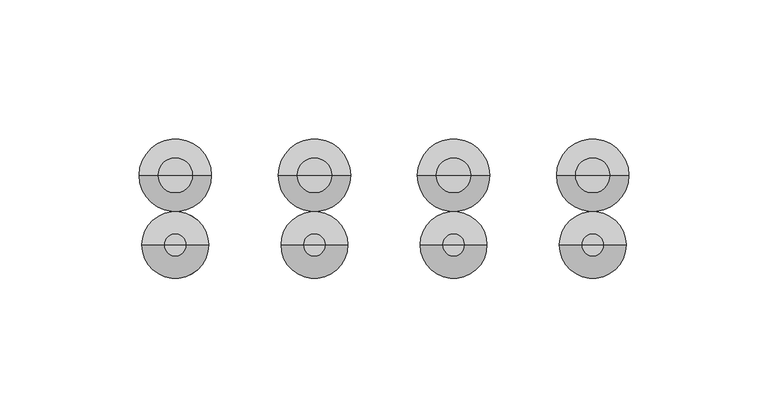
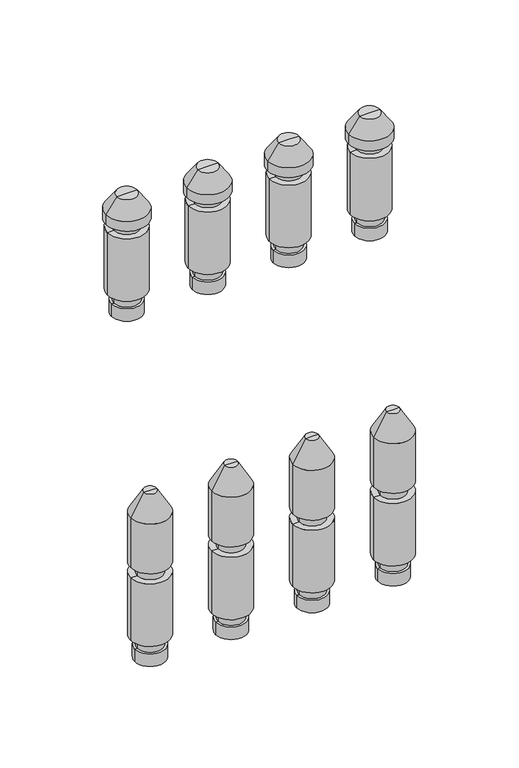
"""IFC4 building model written with IfcOpenShell, lengths in millimetres: valve geometry, PL CZ_Manifold_FT-VA : 05 circuits."""

from ifc_helpers import new_model, si_unit, frame, origin, place, context, project, spatial, polyline, circle_curve, source, transform, mapped, element, save
from ifc_brep_helpers import plane_surface, cylinder_surface, revolved_surface, advanced_brep


def valve_cd8652ac(model_context):
    return source(origin(), model_context, "Body", "AdvancedBrep", [
        advanced_brep(
        [(178.5, 0.0, -35.11267), (197.5, 0.0, -35.11267), (188.0, 0.0, -35.11267), (178.5, 0.0, -27.0369646), (197.5, 0.0, -27.0369646), (180.0, 0.0, -27.0369646), (196.0, 0.0, -27.0369646), (180.0, 0.0, -20.330253), (196.0, 0.0, -20.330253), (176.0, 0.0, -20.330253), (200.0, 0.0, -20.330253), (176.0, 0.0, 20.330253), (200.0, 0.0, 20.330253), (180.0, 0.0, 20.330253), (196.0, 0.0, 20.330253), (180.0, 0.0, 27.0474786), (196.0, 0.0, 27.0474786), (176.0, 0.0, 27.0474786), (200.0, 0.0, 27.0474786), (176.0, 0.0, 59.4084325), (200.0, 0.0, 59.4084325), (184.0, 0.0, 73.264839), (192.0, 0.0, 73.264839), (188.0, 0.0, 73.264839)],
        [
            (0, 1, circle_curve(frame((188.0, 0.0, -35.11267), z_axis=(0.0, 0.0, -1.0), x_axis=(1.0, 0.0, 0.0)), 9.5)),
            (1, 2),
            (2, 0),
            (1, 0, circle_curve(frame((188.0, 0.0, -35.11267), z_axis=(0.0, 0.0, -1.0), x_axis=(1.0, 0.0, 0.0)), 9.5)),
            (3, 4, circle_curve(frame((188.0, 0.0, -27.0369646), z_axis=(0.0, 0.0, -1.0), x_axis=(1.0, 0.0, 0.0)), 9.5)),
            (4, 1),
            (0, 3),
            (4, 3, circle_curve(frame((188.0, 0.0, -27.0369646), z_axis=(0.0, 0.0, -1.0), x_axis=(1.0, 0.0, 0.0)), 9.5)),
            (5, 6, circle_curve(frame((188.0, 0.0, -27.0369646), z_axis=(0.0, 0.0, -1.0), x_axis=(1.0, 0.0, 0.0)), 8.0)),
            (6, 4),
            (3, 5),
            (6, 5, circle_curve(frame((188.0, 0.0, -27.0369646), z_axis=(0.0, 0.0, -1.0), x_axis=(1.0, 0.0, 0.0)), 8.0)),
            (7, 8, circle_curve(frame((188.0, 0.0, -20.330253), z_axis=(0.0, 0.0, -1.0), x_axis=(1.0, 0.0, 0.0)), 8.0)),
            (8, 6),
            (5, 7),
            (8, 7, circle_curve(frame((188.0, 0.0, -20.330253), z_axis=(0.0, 0.0, -1.0), x_axis=(1.0, 0.0, 0.0)), 8.0)),
            (9, 10, circle_curve(frame((188.0, 0.0, -20.330253), z_axis=(0.0, 0.0, -1.0), x_axis=(1.0, 0.0, 0.0)), 12.0)),
            (10, 8),
            (7, 9),
            (10, 9, circle_curve(frame((188.0, 0.0, -20.330253), z_axis=(0.0, 0.0, -1.0), x_axis=(1.0, 0.0, 0.0)), 12.0)),
            (11, 12, circle_curve(frame((188.0, 0.0, 20.330253), z_axis=(0.0, 0.0, -1.0), x_axis=(1.0, 0.0, 0.0)), 12.0)),
            (12, 10),
            (9, 11),
            (12, 11, circle_curve(frame((188.0, 0.0, 20.330253), z_axis=(0.0, 0.0, -1.0), x_axis=(1.0, 0.0, 0.0)), 12.0)),
            (13, 14, circle_curve(frame((188.0, 0.0, 20.330253), z_axis=(0.0, 0.0, -1.0), x_axis=(1.0, 0.0, 0.0)), 8.0)),
            (14, 12),
            (11, 13),
            (14, 13, circle_curve(frame((188.0, 0.0, 20.330253), z_axis=(0.0, 0.0, -1.0), x_axis=(1.0, 0.0, 0.0)), 8.0)),
            (15, 16, circle_curve(frame((188.0, 0.0, 27.0474786), z_axis=(0.0, 0.0, -1.0), x_axis=(1.0, 0.0, 0.0)), 8.0)),
            (16, 14),
            (13, 15),
            (16, 15, circle_curve(frame((188.0, 0.0, 27.0474786), z_axis=(0.0, 0.0, -1.0), x_axis=(1.0, 0.0, 0.0)), 8.0)),
            (17, 18, circle_curve(frame((188.0, 0.0, 27.0474786), z_axis=(0.0, 0.0, -1.0), x_axis=(1.0, 0.0, 0.0)), 12.0)),
            (18, 16),
            (15, 17),
            (18, 17, circle_curve(frame((188.0, 0.0, 27.0474786), z_axis=(0.0, 0.0, -1.0), x_axis=(1.0, 0.0, 0.0)), 12.0)),
            (19, 20, circle_curve(frame((188.0, 0.0, 59.4084325), z_axis=(0.0, 0.0, -1.0), x_axis=(1.0, 0.0, 0.0)), 12.0)),
            (20, 18),
            (17, 19),
            (20, 19, circle_curve(frame((188.0, 0.0, 59.4084325), z_axis=(0.0, 0.0, -1.0), x_axis=(1.0, 0.0, 0.0)), 12.0)),
            (21, 22, circle_curve(frame((188.0, 0.0, 73.264839), z_axis=(0.0, 0.0, -1.0), x_axis=(1.0, 0.0, 0.0)), 4.0)),
            (22, 20),
            (19, 21),
            (22, 21, circle_curve(frame((188.0, 0.0, 73.264839), z_axis=(0.0, 0.0, -1.0), x_axis=(1.0, 0.0, 0.0)), 4.0)),
            (23, 22),
            (21, 23),
        ],
        [
            plane_surface(frame((188.0, 0.0, -35.11267), z_axis=(0.0, 0.0, -1.0), x_axis=(1.0, 0.0, 0.0))),
            cylinder_surface(frame((188.0, 0.0, 58.264839), z_axis=(0.0, 0.0, 1.0), x_axis=(1.0, 0.0, 0.0)), 9.5),
            plane_surface(frame((188.0, 0.0, -27.0369646), z_axis=(0.0, 0.0, 1.0), x_axis=(1.0, 0.0, 0.0))),
            cylinder_surface(frame((188.0, 0.0, 58.264839), z_axis=(0.0, 0.0, 1.0), x_axis=(1.0, 0.0, 0.0)), 8.0),
            plane_surface(frame((188.0, 0.0, -20.330253), z_axis=(0.0, 0.0, -1.0), x_axis=(1.0, 0.0, 0.0))),
            cylinder_surface(frame((188.0, 0.0, 58.264839), z_axis=(0.0, 0.0, 1.0), x_axis=(1.0, 0.0, 0.0)), 12.0),
            plane_surface(frame((188.0, 0.0, 20.330253), z_axis=(0.0, 0.0, 1.0), x_axis=(1.0, 0.0, 0.0))),
            plane_surface(frame((188.0, 0.0, 27.0474786), z_axis=(0.0, 0.0, -1.0), x_axis=(1.0, 0.0, 0.0))),
            revolved_surface(polyline([(200.0, 0.0, 59.4084325), (192.0, 0.0, 73.264839)]), (188.0, 0.0, 58.264839), (0.0, 0.0, 1.0)),
            plane_surface(frame((188.0, 0.0, 73.264839), z_axis=(0.0, 0.0, 1.0), x_axis=(1.0, 0.0, 0.0))),
        ],
        [
            (0, [[1, 2, 3]]),
            (0, [[4, -3, -2]]),
            (1, [[5, 6, -1, 7]]),
            (1, [[8, -7, -4, -6]]),
            (2, [[9, 10, -5, 11]]),
            (2, [[12, -11, -8, -10]]),
            (3, [[13, 14, -9, 15]]),
            (3, [[16, -15, -12, -14]]),
            (4, [[17, 18, -13, 19]]),
            (4, [[20, -19, -16, -18]]),
            (5, [[21, 22, -17, 23]]),
            (5, [[24, -23, -20, -22]]),
            (6, [[25, 26, -21, 27]]),
            (6, [[28, -27, -24, -26]]),
            (3, [[29, 30, -25, 31]]),
            (3, [[32, -31, -28, -30]]),
            (7, [[33, 34, -29, 35]]),
            (7, [[36, -35, -32, -34]]),
            (5, [[37, 38, -33, 39]]),
            (5, [[40, -39, -36, -38]]),
            (8, [[41, 42, -37, 43]]),
            (8, [[44, -43, -40, -42]]),
            (9, [[45, -41, 46]]),
            (9, [[-46, -44, -45]]),
        ],
    ),
        advanced_brep(
        [(128.5, 0.0, -35.11267), (147.5, 0.0, -35.11267), (138.0, 0.0, -35.11267), (128.5, 0.0, -27.0369646), (147.5, 0.0, -27.0369646), (130.0, 0.0, -27.0369646), (146.0, 0.0, -27.0369646), (130.0, 0.0, -20.330253), (146.0, 0.0, -20.330253), (126.0, 0.0, -20.330253), (150.0, 0.0, -20.330253), (126.0, 0.0, 20.330253), (150.0, 0.0, 20.330253), (130.0, 0.0, 20.330253), (146.0, 0.0, 20.330253), (130.0, 0.0, 27.0474786), (146.0, 0.0, 27.0474786), (126.0, 0.0, 27.0474786), (150.0, 0.0, 27.0474786), (126.0, 0.0, 59.4084325), (150.0, 0.0, 59.4084325), (134.0, 0.0, 73.264839), (142.0, 0.0, 73.264839), (138.0, 0.0, 73.264839)],
        [
            (0, 1, circle_curve(frame((138.0, 0.0, -35.11267), z_axis=(0.0, 0.0, -1.0), x_axis=(1.0, 0.0, 0.0)), 9.5)),
            (1, 2),
            (2, 0),
            (1, 0, circle_curve(frame((138.0, 0.0, -35.11267), z_axis=(0.0, 0.0, -1.0), x_axis=(1.0, 0.0, 0.0)), 9.5)),
            (3, 4, circle_curve(frame((138.0, 0.0, -27.0369646), z_axis=(0.0, 0.0, -1.0), x_axis=(1.0, 0.0, 0.0)), 9.5)),
            (4, 1),
            (0, 3),
            (4, 3, circle_curve(frame((138.0, 0.0, -27.0369646), z_axis=(0.0, 0.0, -1.0), x_axis=(1.0, 0.0, 0.0)), 9.5)),
            (5, 6, circle_curve(frame((138.0, 0.0, -27.0369646), z_axis=(0.0, 0.0, -1.0), x_axis=(1.0, 0.0, 0.0)), 8.0)),
            (6, 4),
            (3, 5),
            (6, 5, circle_curve(frame((138.0, 0.0, -27.0369646), z_axis=(0.0, 0.0, -1.0), x_axis=(1.0, 0.0, 0.0)), 8.0)),
            (7, 8, circle_curve(frame((138.0, 0.0, -20.330253), z_axis=(0.0, 0.0, -1.0), x_axis=(1.0, 0.0, 0.0)), 8.0)),
            (8, 6),
            (5, 7),
            (8, 7, circle_curve(frame((138.0, 0.0, -20.330253), z_axis=(0.0, 0.0, -1.0), x_axis=(1.0, 0.0, 0.0)), 8.0)),
            (9, 10, circle_curve(frame((138.0, 0.0, -20.330253), z_axis=(0.0, 0.0, -1.0), x_axis=(1.0, 0.0, 0.0)), 12.0)),
            (10, 8),
            (7, 9),
            (10, 9, circle_curve(frame((138.0, 0.0, -20.330253), z_axis=(0.0, 0.0, -1.0), x_axis=(1.0, 0.0, 0.0)), 12.0)),
            (11, 12, circle_curve(frame((138.0, 0.0, 20.330253), z_axis=(0.0, 0.0, -1.0), x_axis=(1.0, 0.0, 0.0)), 12.0)),
            (12, 10),
            (9, 11),
            (12, 11, circle_curve(frame((138.0, 0.0, 20.330253), z_axis=(0.0, 0.0, -1.0), x_axis=(1.0, 0.0, 0.0)), 12.0)),
            (13, 14, circle_curve(frame((138.0, 0.0, 20.330253), z_axis=(0.0, 0.0, -1.0), x_axis=(1.0, 0.0, 0.0)), 8.0)),
            (14, 12),
            (11, 13),
            (14, 13, circle_curve(frame((138.0, 0.0, 20.330253), z_axis=(0.0, 0.0, -1.0), x_axis=(1.0, 0.0, 0.0)), 8.0)),
            (15, 16, circle_curve(frame((138.0, 0.0, 27.0474786), z_axis=(0.0, 0.0, -1.0), x_axis=(1.0, 0.0, 0.0)), 8.0)),
            (16, 14),
            (13, 15),
            (16, 15, circle_curve(frame((138.0, 0.0, 27.0474786), z_axis=(0.0, 0.0, -1.0), x_axis=(1.0, 0.0, 0.0)), 8.0)),
            (17, 18, circle_curve(frame((138.0, 0.0, 27.0474786), z_axis=(0.0, 0.0, -1.0), x_axis=(1.0, 0.0, 0.0)), 12.0)),
            (18, 16),
            (15, 17),
            (18, 17, circle_curve(frame((138.0, 0.0, 27.0474786), z_axis=(0.0, 0.0, -1.0), x_axis=(1.0, 0.0, 0.0)), 12.0)),
            (19, 20, circle_curve(frame((138.0, 0.0, 59.4084325), z_axis=(0.0, 0.0, -1.0), x_axis=(1.0, 0.0, 0.0)), 12.0)),
            (20, 18),
            (17, 19),
            (20, 19, circle_curve(frame((138.0, 0.0, 59.4084325), z_axis=(0.0, 0.0, -1.0), x_axis=(1.0, 0.0, 0.0)), 12.0)),
            (21, 22, circle_curve(frame((138.0, 0.0, 73.264839), z_axis=(0.0, 0.0, -1.0), x_axis=(1.0, 0.0, 0.0)), 4.0)),
            (22, 20),
            (19, 21),
            (22, 21, circle_curve(frame((138.0, 0.0, 73.264839), z_axis=(0.0, 0.0, -1.0), x_axis=(1.0, 0.0, 0.0)), 4.0)),
            (23, 22),
            (21, 23),
        ],
        [
            plane_surface(frame((138.0, 0.0, -35.11267), z_axis=(0.0, 0.0, -1.0), x_axis=(1.0, 0.0, 0.0))),
            cylinder_surface(frame((138.0, 0.0, 58.264839), z_axis=(0.0, 0.0, 1.0), x_axis=(1.0, 0.0, 0.0)), 9.5),
            plane_surface(frame((138.0, 0.0, -27.0369646), z_axis=(0.0, 0.0, 1.0), x_axis=(1.0, 0.0, 0.0))),
            cylinder_surface(frame((138.0, 0.0, 58.264839), z_axis=(0.0, 0.0, 1.0), x_axis=(1.0, 0.0, 0.0)), 8.0),
            plane_surface(frame((138.0, 0.0, -20.330253), z_axis=(0.0, 0.0, -1.0), x_axis=(1.0, 0.0, 0.0))),
            cylinder_surface(frame((138.0, 0.0, 58.264839), z_axis=(0.0, 0.0, 1.0), x_axis=(1.0, 0.0, 0.0)), 12.0),
            plane_surface(frame((138.0, 0.0, 20.330253), z_axis=(0.0, 0.0, 1.0), x_axis=(1.0, 0.0, 0.0))),
            plane_surface(frame((138.0, 0.0, 27.0474786), z_axis=(0.0, 0.0, -1.0), x_axis=(1.0, 0.0, 0.0))),
            revolved_surface(polyline([(150.0, 0.0, 59.4084325), (142.0, 0.0, 73.264839)]), (138.0, 0.0, 58.264839), (0.0, 0.0, 1.0)),
            plane_surface(frame((138.0, 0.0, 73.264839), z_axis=(0.0, 0.0, 1.0), x_axis=(1.0, 0.0, 0.0))),
        ],
        [
            (0, [[1, 2, 3]]),
            (0, [[4, -3, -2]]),
            (1, [[5, 6, -1, 7]]),
            (1, [[8, -7, -4, -6]]),
            (2, [[9, 10, -5, 11]]),
            (2, [[12, -11, -8, -10]]),
            (3, [[13, 14, -9, 15]]),
            (3, [[16, -15, -12, -14]]),
            (4, [[17, 18, -13, 19]]),
            (4, [[20, -19, -16, -18]]),
            (5, [[21, 22, -17, 23]]),
            (5, [[24, -23, -20, -22]]),
            (6, [[25, 26, -21, 27]]),
            (6, [[28, -27, -24, -26]]),
            (3, [[29, 30, -25, 31]]),
            (3, [[32, -31, -28, -30]]),
            (7, [[33, 34, -29, 35]]),
            (7, [[36, -35, -32, -34]]),
            (5, [[37, 38, -33, 39]]),
            (5, [[40, -39, -36, -38]]),
            (8, [[41, 42, -37, 43]]),
            (8, [[44, -43, -40, -42]]),
            (9, [[45, -41, 46]]),
            (9, [[-46, -44, -45]]),
        ],
    ),
        advanced_brep(
        [(178.5, 25.0, 174.88733), (197.5, 25.0, 174.88733), (188.0, 25.0, 174.88733), (178.5, 25.0, 182.9630354), (197.5, 25.0, 182.9630354), (180.0, 25.0, 182.9630354), (196.0, 25.0, 182.9630354), (180.0, 25.0, 189.669747), (196.0, 25.0, 189.669747), (176.0, 25.0, 189.669747), (200.0, 25.0, 189.669747), (176.0, 25.0, 230.330253), (200.0, 25.0, 230.330253), (180.0, 25.0, 230.330253), (196.0, 25.0, 230.330253), (180.0, 25.0, 236.0474786), (196.0, 25.0, 236.0474786), (175.0, 25.0, 236.0474786), (201.0, 25.0, 236.0474786), (175.0, 25.0, 242.337955), (201.0, 25.0, 242.337955), (181.6551779, 25.0, 251.842534), (194.3448221, 25.0, 251.842534), (188.0, 25.0, 251.842534)],
        [
            (0, 1, circle_curve(frame((188.0, 25.0, 174.88733), z_axis=(0.0, 0.0, -1.0), x_axis=(1.0, 0.0, 0.0)), 9.5)),
            (1, 2),
            (2, 0),
            (1, 0, circle_curve(frame((188.0, 25.0, 174.88733), z_axis=(0.0, 0.0, -1.0), x_axis=(1.0, 0.0, 0.0)), 9.5)),
            (3, 4, circle_curve(frame((188.0, 25.0, 182.9630354), z_axis=(0.0, 0.0, -1.0), x_axis=(1.0, 0.0, 0.0)), 9.5)),
            (4, 1),
            (0, 3),
            (4, 3, circle_curve(frame((188.0, 25.0, 182.9630354), z_axis=(0.0, 0.0, -1.0), x_axis=(1.0, 0.0, 0.0)), 9.5)),
            (5, 6, circle_curve(frame((188.0, 25.0, 182.9630354), z_axis=(0.0, 0.0, -1.0), x_axis=(1.0, 0.0, 0.0)), 8.0)),
            (6, 4),
            (3, 5),
            (6, 5, circle_curve(frame((188.0, 25.0, 182.9630354), z_axis=(0.0, 0.0, -1.0), x_axis=(1.0, 0.0, 0.0)), 8.0)),
            (7, 8, circle_curve(frame((188.0, 25.0, 189.669747), z_axis=(0.0, 0.0, -1.0), x_axis=(1.0, 0.0, 0.0)), 8.0)),
            (8, 6),
            (5, 7),
            (8, 7, circle_curve(frame((188.0, 25.0, 189.669747), z_axis=(0.0, 0.0, -1.0), x_axis=(1.0, 0.0, 0.0)), 8.0)),
            (9, 10, circle_curve(frame((188.0, 25.0, 189.669747), z_axis=(0.0, 0.0, -1.0), x_axis=(1.0, 0.0, 0.0)), 12.0)),
            (10, 8),
            (7, 9),
            (10, 9, circle_curve(frame((188.0, 25.0, 189.669747), z_axis=(0.0, 0.0, -1.0), x_axis=(1.0, 0.0, 0.0)), 12.0)),
            (11, 12, circle_curve(frame((188.0, 25.0, 230.330253), z_axis=(0.0, 0.0, -1.0), x_axis=(1.0, 0.0, 0.0)), 12.0)),
            (12, 10),
            (9, 11),
            (12, 11, circle_curve(frame((188.0, 25.0, 230.330253), z_axis=(0.0, 0.0, -1.0), x_axis=(1.0, 0.0, 0.0)), 12.0)),
            (13, 14, circle_curve(frame((188.0, 25.0, 230.330253), z_axis=(0.0, 0.0, -1.0), x_axis=(1.0, 0.0, 0.0)), 8.0)),
            (14, 12),
            (11, 13),
            (14, 13, circle_curve(frame((188.0, 25.0, 230.330253), z_axis=(0.0, 0.0, -1.0), x_axis=(1.0, 0.0, 0.0)), 8.0)),
            (15, 16, circle_curve(frame((188.0, 25.0, 236.0474786), z_axis=(0.0, 0.0, -1.0), x_axis=(1.0, 0.0, 0.0)), 8.0)),
            (16, 14),
            (13, 15),
            (16, 15, circle_curve(frame((188.0, 25.0, 236.0474786), z_axis=(0.0, 0.0, -1.0), x_axis=(1.0, 0.0, 0.0)), 8.0)),
            (17, 18, circle_curve(frame((188.0, 25.0, 236.0474786), z_axis=(0.0, 0.0, -1.0), x_axis=(1.0, 0.0, 0.0)), 13.0)),
            (18, 16),
            (15, 17),
            (18, 17, circle_curve(frame((188.0, 25.0, 236.0474786), z_axis=(0.0, 0.0, -1.0), x_axis=(1.0, 0.0, 0.0)), 13.0)),
            (19, 20, circle_curve(frame((188.0, 25.0, 242.337955), z_axis=(0.0, 0.0, -1.0), x_axis=(1.0, 0.0, 0.0)), 13.0)),
            (20, 18),
            (17, 19),
            (20, 19, circle_curve(frame((188.0, 25.0, 242.337955), z_axis=(0.0, 0.0, -1.0), x_axis=(1.0, 0.0, 0.0)), 13.0)),
            (21, 22, circle_curve(frame((188.0, 25.0, 251.842534), z_axis=(0.0, 0.0, -1.0), x_axis=(1.0, 0.0, 0.0)), 6.3448221)),
            (22, 20),
            (19, 21),
            (22, 21, circle_curve(frame((188.0, 25.0, 251.842534), z_axis=(0.0, 0.0, -1.0), x_axis=(1.0, 0.0, 0.0)), 6.3448221)),
            (23, 22),
            (21, 23),
        ],
        [
            plane_surface(frame((188.0, 25.0, 174.88733), z_axis=(0.0, 0.0, -1.0), x_axis=(1.0, 0.0, 0.0))),
            cylinder_surface(frame((188.0, 25.0, 247.7026565), z_axis=(0.0, 0.0, 1.0), x_axis=(1.0, 0.0, 0.0)), 9.5),
            plane_surface(frame((188.0, 25.0, 182.9630354), z_axis=(0.0, 0.0, 1.0), x_axis=(1.0, 0.0, 0.0))),
            cylinder_surface(frame((188.0, 25.0, 247.7026565), z_axis=(0.0, 0.0, 1.0), x_axis=(1.0, 0.0, 0.0)), 8.0),
            plane_surface(frame((188.0, 25.0, 189.669747), z_axis=(0.0, 0.0, -1.0), x_axis=(1.0, 0.0, 0.0))),
            cylinder_surface(frame((188.0, 25.0, 247.7026565), z_axis=(0.0, 0.0, 1.0), x_axis=(1.0, 0.0, 0.0)), 12.0),
            plane_surface(frame((188.0, 25.0, 230.330253), z_axis=(0.0, 0.0, 1.0), x_axis=(1.0, 0.0, 0.0))),
            plane_surface(frame((188.0, 25.0, 236.0474786), z_axis=(0.0, 0.0, -1.0), x_axis=(1.0, 0.0, 0.0))),
            cylinder_surface(frame((188.0, 25.0, 247.7026565), z_axis=(0.0, 0.0, 1.0), x_axis=(1.0, 0.0, 0.0)), 13.0),
            revolved_surface(polyline([(201.0, 25.0, 242.337955), (194.3448221, 25.0, 251.842534)]), (188.0, 25.0, 247.7026565), (0.0, 0.0, 1.0)),
            plane_surface(frame((188.0, 25.0, 251.842534), z_axis=(0.0, 0.0, 1.0), x_axis=(1.0, 0.0, 0.0))),
        ],
        [
            (0, [[1, 2, 3]]),
            (0, [[4, -3, -2]]),
            (1, [[5, 6, -1, 7]]),
            (1, [[8, -7, -4, -6]]),
            (2, [[9, 10, -5, 11]]),
            (2, [[12, -11, -8, -10]]),
            (3, [[13, 14, -9, 15]]),
            (3, [[16, -15, -12, -14]]),
            (4, [[17, 18, -13, 19]]),
            (4, [[20, -19, -16, -18]]),
            (5, [[21, 22, -17, 23]]),
            (5, [[24, -23, -20, -22]]),
            (6, [[25, 26, -21, 27]]),
            (6, [[28, -27, -24, -26]]),
            (3, [[29, 30, -25, 31]]),
            (3, [[32, -31, -28, -30]]),
            (7, [[33, 34, -29, 35]]),
            (7, [[36, -35, -32, -34]]),
            (8, [[37, 38, -33, 39]]),
            (8, [[40, -39, -36, -38]]),
            (9, [[41, 42, -37, 43]]),
            (9, [[44, -43, -40, -42]]),
            (10, [[45, -41, 46]]),
            (10, [[-46, -44, -45]]),
        ],
    ),
        advanced_brep(
        [(128.5, 25.0, 174.88733), (147.5, 25.0, 174.88733), (138.0, 25.0, 174.88733), (128.5, 25.0, 182.9630354), (147.5, 25.0, 182.9630354), (130.0, 25.0, 182.9630354), (146.0, 25.0, 182.9630354), (130.0, 25.0, 189.669747), (146.0, 25.0, 189.669747), (126.0, 25.0, 189.669747), (150.0, 25.0, 189.669747), (126.0, 25.0, 230.330253), (150.0, 25.0, 230.330253), (130.0, 25.0, 230.330253), (146.0, 25.0, 230.330253), (130.0, 25.0, 236.0474786), (146.0, 25.0, 236.0474786), (125.0, 25.0, 236.0474786), (151.0, 25.0, 236.0474786), (125.0, 25.0, 242.337955), (151.0, 25.0, 242.337955), (131.6551779, 25.0, 251.842534), (144.3448221, 25.0, 251.842534), (138.0, 25.0, 251.842534)],
        [
            (0, 1, circle_curve(frame((138.0, 25.0, 174.88733), z_axis=(0.0, 0.0, -1.0), x_axis=(1.0, 0.0, 0.0)), 9.5)),
            (1, 2),
            (2, 0),
            (1, 0, circle_curve(frame((138.0, 25.0, 174.88733), z_axis=(0.0, 0.0, -1.0), x_axis=(1.0, 0.0, 0.0)), 9.5)),
            (3, 4, circle_curve(frame((138.0, 25.0, 182.9630354), z_axis=(0.0, 0.0, -1.0), x_axis=(1.0, 0.0, 0.0)), 9.5)),
            (4, 1),
            (0, 3),
            (4, 3, circle_curve(frame((138.0, 25.0, 182.9630354), z_axis=(0.0, 0.0, -1.0), x_axis=(1.0, 0.0, 0.0)), 9.5)),
            (5, 6, circle_curve(frame((138.0, 25.0, 182.9630354), z_axis=(0.0, 0.0, -1.0), x_axis=(1.0, 0.0, 0.0)), 8.0)),
            (6, 4),
            (3, 5),
            (6, 5, circle_curve(frame((138.0, 25.0, 182.9630354), z_axis=(0.0, 0.0, -1.0), x_axis=(1.0, 0.0, 0.0)), 8.0)),
            (7, 8, circle_curve(frame((138.0, 25.0, 189.669747), z_axis=(0.0, 0.0, -1.0), x_axis=(1.0, 0.0, 0.0)), 8.0)),
            (8, 6),
            (5, 7),
            (8, 7, circle_curve(frame((138.0, 25.0, 189.669747), z_axis=(0.0, 0.0, -1.0), x_axis=(1.0, 0.0, 0.0)), 8.0)),
            (9, 10, circle_curve(frame((138.0, 25.0, 189.669747), z_axis=(0.0, 0.0, -1.0), x_axis=(1.0, 0.0, 0.0)), 12.0)),
            (10, 8),
            (7, 9),
            (10, 9, circle_curve(frame((138.0, 25.0, 189.669747), z_axis=(0.0, 0.0, -1.0), x_axis=(1.0, 0.0, 0.0)), 12.0)),
            (11, 12, circle_curve(frame((138.0, 25.0, 230.330253), z_axis=(0.0, 0.0, -1.0), x_axis=(1.0, 0.0, 0.0)), 12.0)),
            (12, 10),
            (9, 11),
            (12, 11, circle_curve(frame((138.0, 25.0, 230.330253), z_axis=(0.0, 0.0, -1.0), x_axis=(1.0, 0.0, 0.0)), 12.0)),
            (13, 14, circle_curve(frame((138.0, 25.0, 230.330253), z_axis=(0.0, 0.0, -1.0), x_axis=(1.0, 0.0, 0.0)), 8.0)),
            (14, 12),
            (11, 13),
            (14, 13, circle_curve(frame((138.0, 25.0, 230.330253), z_axis=(0.0, 0.0, -1.0), x_axis=(1.0, 0.0, 0.0)), 8.0)),
            (15, 16, circle_curve(frame((138.0, 25.0, 236.0474786), z_axis=(0.0, 0.0, -1.0), x_axis=(1.0, 0.0, 0.0)), 8.0)),
            (16, 14),
            (13, 15),
            (16, 15, circle_curve(frame((138.0, 25.0, 236.0474786), z_axis=(0.0, 0.0, -1.0), x_axis=(1.0, 0.0, 0.0)), 8.0)),
            (17, 18, circle_curve(frame((138.0, 25.0, 236.0474786), z_axis=(0.0, 0.0, -1.0), x_axis=(1.0, 0.0, 0.0)), 13.0)),
            (18, 16),
            (15, 17),
            (18, 17, circle_curve(frame((138.0, 25.0, 236.0474786), z_axis=(0.0, 0.0, -1.0), x_axis=(1.0, 0.0, 0.0)), 13.0)),
            (19, 20, circle_curve(frame((138.0, 25.0, 242.337955), z_axis=(0.0, 0.0, -1.0), x_axis=(1.0, 0.0, 0.0)), 13.0)),
            (20, 18),
            (17, 19),
            (20, 19, circle_curve(frame((138.0, 25.0, 242.337955), z_axis=(0.0, 0.0, -1.0), x_axis=(1.0, 0.0, 0.0)), 13.0)),
            (21, 22, circle_curve(frame((138.0, 25.0, 251.842534), z_axis=(0.0, 0.0, -1.0), x_axis=(1.0, 0.0, 0.0)), 6.3448221)),
            (22, 20),
            (19, 21),
            (22, 21, circle_curve(frame((138.0, 25.0, 251.842534), z_axis=(0.0, 0.0, -1.0), x_axis=(1.0, 0.0, 0.0)), 6.3448221)),
            (23, 22),
            (21, 23),
        ],
        [
            plane_surface(frame((138.0, 25.0, 174.88733), z_axis=(0.0, 0.0, -1.0), x_axis=(1.0, 0.0, 0.0))),
            cylinder_surface(frame((138.0, 25.0, 247.7026565), z_axis=(0.0, 0.0, 1.0), x_axis=(1.0, 0.0, 0.0)), 9.5),
            plane_surface(frame((138.0, 25.0, 182.9630354), z_axis=(0.0, 0.0, 1.0), x_axis=(1.0, 0.0, 0.0))),
            cylinder_surface(frame((138.0, 25.0, 247.7026565), z_axis=(0.0, 0.0, 1.0), x_axis=(1.0, 0.0, 0.0)), 8.0),
            plane_surface(frame((138.0, 25.0, 189.669747), z_axis=(0.0, 0.0, -1.0), x_axis=(1.0, 0.0, 0.0))),
            cylinder_surface(frame((138.0, 25.0, 247.7026565), z_axis=(0.0, 0.0, 1.0), x_axis=(1.0, 0.0, 0.0)), 12.0),
            plane_surface(frame((138.0, 25.0, 230.330253), z_axis=(0.0, 0.0, 1.0), x_axis=(1.0, 0.0, 0.0))),
            plane_surface(frame((138.0, 25.0, 236.0474786), z_axis=(0.0, 0.0, -1.0), x_axis=(1.0, 0.0, 0.0))),
            cylinder_surface(frame((138.0, 25.0, 247.7026565), z_axis=(0.0, 0.0, 1.0), x_axis=(1.0, 0.0, 0.0)), 13.0),
            revolved_surface(polyline([(151.0, 25.0, 242.337955), (144.3448221, 25.0, 251.842534)]), (138.0, 25.0, 247.7026565), (0.0, 0.0, 1.0)),
            plane_surface(frame((138.0, 25.0, 251.842534), z_axis=(0.0, 0.0, 1.0), x_axis=(1.0, 0.0, 0.0))),
        ],
        [
            (0, [[1, 2, 3]]),
            (0, [[4, -3, -2]]),
            (1, [[5, 6, -1, 7]]),
            (1, [[8, -7, -4, -6]]),
            (2, [[9, 10, -5, 11]]),
            (2, [[12, -11, -8, -10]]),
            (3, [[13, 14, -9, 15]]),
            (3, [[16, -15, -12, -14]]),
            (4, [[17, 18, -13, 19]]),
            (4, [[20, -19, -16, -18]]),
            (5, [[21, 22, -17, 23]]),
            (5, [[24, -23, -20, -22]]),
            (6, [[25, 26, -21, 27]]),
            (6, [[28, -27, -24, -26]]),
            (3, [[29, 30, -25, 31]]),
            (3, [[32, -31, -28, -30]]),
            (7, [[33, 34, -29, 35]]),
            (7, [[36, -35, -32, -34]]),
            (8, [[37, 38, -33, 39]]),
            (8, [[40, -39, -36, -38]]),
            (9, [[41, 42, -37, 43]]),
            (9, [[44, -43, -40, -42]]),
            (10, [[45, -41, 46]]),
            (10, [[-46, -44, -45]]),
        ],
    ),
        advanced_brep(
        [(78.5, 0.0, -35.11267), (97.5, 0.0, -35.11267), (88.0, 0.0, -35.11267), (78.5, 0.0, -27.0369646), (97.5, 0.0, -27.0369646), (80.0, 0.0, -27.0369646), (96.0, 0.0, -27.0369646), (80.0, 0.0, -20.330253), (96.0, 0.0, -20.330253), (76.0, 0.0, -20.330253), (100.0, 0.0, -20.330253), (76.0, 0.0, 20.330253), (100.0, 0.0, 20.330253), (80.0, 0.0, 20.330253), (96.0, 0.0, 20.330253), (80.0, 0.0, 27.0474786), (96.0, 0.0, 27.0474786), (76.0, 0.0, 27.0474786), (100.0, 0.0, 27.0474786), (76.0, 0.0, 59.4084325), (100.0, 0.0, 59.4084325), (84.0, 0.0, 73.264839), (92.0, 0.0, 73.264839), (88.0, 0.0, 73.264839)],
        [
            (0, 1, circle_curve(frame((88.0, 0.0, -35.11267), z_axis=(0.0, 0.0, -1.0), x_axis=(1.0, 0.0, 0.0)), 9.5)),
            (1, 2),
            (2, 0),
            (1, 0, circle_curve(frame((88.0, 0.0, -35.11267), z_axis=(0.0, 0.0, -1.0), x_axis=(1.0, 0.0, 0.0)), 9.5)),
            (3, 4, circle_curve(frame((88.0, 0.0, -27.0369646), z_axis=(0.0, 0.0, -1.0), x_axis=(1.0, 0.0, 0.0)), 9.5)),
            (4, 1),
            (0, 3),
            (4, 3, circle_curve(frame((88.0, 0.0, -27.0369646), z_axis=(0.0, 0.0, -1.0), x_axis=(1.0, 0.0, 0.0)), 9.5)),
            (5, 6, circle_curve(frame((88.0, 0.0, -27.0369646), z_axis=(0.0, 0.0, -1.0), x_axis=(1.0, 0.0, 0.0)), 8.0)),
            (6, 4),
            (3, 5),
            (6, 5, circle_curve(frame((88.0, 0.0, -27.0369646), z_axis=(0.0, 0.0, -1.0), x_axis=(1.0, 0.0, 0.0)), 8.0)),
            (7, 8, circle_curve(frame((88.0, 0.0, -20.330253), z_axis=(0.0, 0.0, -1.0), x_axis=(1.0, 0.0, 0.0)), 8.0)),
            (8, 6),
            (5, 7),
            (8, 7, circle_curve(frame((88.0, 0.0, -20.330253), z_axis=(0.0, 0.0, -1.0), x_axis=(1.0, 0.0, 0.0)), 8.0)),
            (9, 10, circle_curve(frame((88.0, 0.0, -20.330253), z_axis=(0.0, 0.0, -1.0), x_axis=(1.0, 0.0, 0.0)), 12.0)),
            (10, 8),
            (7, 9),
            (10, 9, circle_curve(frame((88.0, 0.0, -20.330253), z_axis=(0.0, 0.0, -1.0), x_axis=(1.0, 0.0, 0.0)), 12.0)),
            (11, 12, circle_curve(frame((88.0, 0.0, 20.330253), z_axis=(0.0, 0.0, -1.0), x_axis=(1.0, 0.0, 0.0)), 12.0)),
            (12, 10),
            (9, 11),
            (12, 11, circle_curve(frame((88.0, 0.0, 20.330253), z_axis=(0.0, 0.0, -1.0), x_axis=(1.0, 0.0, 0.0)), 12.0)),
            (13, 14, circle_curve(frame((88.0, 0.0, 20.330253), z_axis=(0.0, 0.0, -1.0), x_axis=(1.0, 0.0, 0.0)), 8.0)),
            (14, 12),
            (11, 13),
            (14, 13, circle_curve(frame((88.0, 0.0, 20.330253), z_axis=(0.0, 0.0, -1.0), x_axis=(1.0, 0.0, 0.0)), 8.0)),
            (15, 16, circle_curve(frame((88.0, 0.0, 27.0474786), z_axis=(0.0, 0.0, -1.0), x_axis=(1.0, 0.0, 0.0)), 8.0)),
            (16, 14),
            (13, 15),
            (16, 15, circle_curve(frame((88.0, 0.0, 27.0474786), z_axis=(0.0, 0.0, -1.0), x_axis=(1.0, 0.0, 0.0)), 8.0)),
            (17, 18, circle_curve(frame((88.0, 0.0, 27.0474786), z_axis=(0.0, 0.0, -1.0), x_axis=(1.0, 0.0, 0.0)), 12.0)),
            (18, 16),
            (15, 17),
            (18, 17, circle_curve(frame((88.0, 0.0, 27.0474786), z_axis=(0.0, 0.0, -1.0), x_axis=(1.0, 0.0, 0.0)), 12.0)),
            (19, 20, circle_curve(frame((88.0, 0.0, 59.4084325), z_axis=(0.0, 0.0, -1.0), x_axis=(1.0, 0.0, 0.0)), 12.0)),
            (20, 18),
            (17, 19),
            (20, 19, circle_curve(frame((88.0, 0.0, 59.4084325), z_axis=(0.0, 0.0, -1.0), x_axis=(1.0, 0.0, 0.0)), 12.0)),
            (21, 22, circle_curve(frame((88.0, 0.0, 73.264839), z_axis=(0.0, 0.0, -1.0), x_axis=(1.0, 0.0, 0.0)), 4.0)),
            (22, 20),
            (19, 21),
            (22, 21, circle_curve(frame((88.0, 0.0, 73.264839), z_axis=(0.0, 0.0, -1.0), x_axis=(1.0, 0.0, 0.0)), 4.0)),
            (23, 22),
            (21, 23),
        ],
        [
            plane_surface(frame((88.0, 0.0, -35.11267), z_axis=(0.0, 0.0, -1.0), x_axis=(1.0, 0.0, 0.0))),
            cylinder_surface(frame((88.0, 0.0, 58.264839), z_axis=(0.0, 0.0, 1.0), x_axis=(1.0, 0.0, 0.0)), 9.5),
            plane_surface(frame((88.0, 0.0, -27.0369646), z_axis=(0.0, 0.0, 1.0), x_axis=(1.0, 0.0, 0.0))),
            cylinder_surface(frame((88.0, 0.0, 58.264839), z_axis=(0.0, 0.0, 1.0), x_axis=(1.0, 0.0, 0.0)), 8.0),
            plane_surface(frame((88.0, 0.0, -20.330253), z_axis=(0.0, 0.0, -1.0), x_axis=(1.0, 0.0, 0.0))),
            cylinder_surface(frame((88.0, 0.0, 58.264839), z_axis=(0.0, 0.0, 1.0), x_axis=(1.0, 0.0, 0.0)), 12.0),
            plane_surface(frame((88.0, 0.0, 20.330253), z_axis=(0.0, 0.0, 1.0), x_axis=(1.0, 0.0, 0.0))),
            plane_surface(frame((88.0, 0.0, 27.0474786), z_axis=(0.0, 0.0, -1.0), x_axis=(1.0, 0.0, 0.0))),
            revolved_surface(polyline([(100.0, 0.0, 59.4084325), (92.0, 0.0, 73.264839)]), (88.0, 0.0, 58.264839), (0.0, 0.0, 1.0)),
            plane_surface(frame((88.0, 0.0, 73.264839), z_axis=(0.0, 0.0, 1.0), x_axis=(1.0, 0.0, 0.0))),
        ],
        [
            (0, [[1, 2, 3]]),
            (0, [[4, -3, -2]]),
            (1, [[5, 6, -1, 7]]),
            (1, [[8, -7, -4, -6]]),
            (2, [[9, 10, -5, 11]]),
            (2, [[12, -11, -8, -10]]),
            (3, [[13, 14, -9, 15]]),
            (3, [[16, -15, -12, -14]]),
            (4, [[17, 18, -13, 19]]),
            (4, [[20, -19, -16, -18]]),
            (5, [[21, 22, -17, 23]]),
            (5, [[24, -23, -20, -22]]),
            (6, [[25, 26, -21, 27]]),
            (6, [[28, -27, -24, -26]]),
            (3, [[29, 30, -25, 31]]),
            (3, [[32, -31, -28, -30]]),
            (7, [[33, 34, -29, 35]]),
            (7, [[36, -35, -32, -34]]),
            (5, [[37, 38, -33, 39]]),
            (5, [[40, -39, -36, -38]]),
            (8, [[41, 42, -37, 43]]),
            (8, [[44, -43, -40, -42]]),
            (9, [[45, -41, 46]]),
            (9, [[-46, -44, -45]]),
        ],
    ),
        advanced_brep(
        [(78.5, 25.0, 174.88733), (97.5, 25.0, 174.88733), (88.0, 25.0, 174.88733), (78.5, 25.0, 182.9630354), (97.5, 25.0, 182.9630354), (80.0, 25.0, 182.9630354), (96.0, 25.0, 182.9630354), (80.0, 25.0, 189.669747), (96.0, 25.0, 189.669747), (76.0, 25.0, 189.669747), (100.0, 25.0, 189.669747), (76.0, 25.0, 230.330253), (100.0, 25.0, 230.330253), (80.0, 25.0, 230.330253), (96.0, 25.0, 230.330253), (80.0, 25.0, 236.0474786), (96.0, 25.0, 236.0474786), (75.0, 25.0, 236.0474786), (101.0, 25.0, 236.0474786), (75.0, 25.0, 242.337955), (101.0, 25.0, 242.337955), (81.6551779, 25.0, 251.842534), (94.3448221, 25.0, 251.842534), (88.0, 25.0, 251.842534)],
        [
            (0, 1, circle_curve(frame((88.0, 25.0, 174.88733), z_axis=(0.0, 0.0, -1.0), x_axis=(1.0, 0.0, 0.0)), 9.5)),
            (1, 2),
            (2, 0),
            (1, 0, circle_curve(frame((88.0, 25.0, 174.88733), z_axis=(0.0, 0.0, -1.0), x_axis=(1.0, 0.0, 0.0)), 9.5)),
            (3, 4, circle_curve(frame((88.0, 25.0, 182.9630354), z_axis=(0.0, 0.0, -1.0), x_axis=(1.0, 0.0, 0.0)), 9.5)),
            (4, 1),
            (0, 3),
            (4, 3, circle_curve(frame((88.0, 25.0, 182.9630354), z_axis=(0.0, 0.0, -1.0), x_axis=(1.0, 0.0, 0.0)), 9.5)),
            (5, 6, circle_curve(frame((88.0, 25.0, 182.9630354), z_axis=(0.0, 0.0, -1.0), x_axis=(1.0, 0.0, 0.0)), 8.0)),
            (6, 4),
            (3, 5),
            (6, 5, circle_curve(frame((88.0, 25.0, 182.9630354), z_axis=(0.0, 0.0, -1.0), x_axis=(1.0, 0.0, 0.0)), 8.0)),
            (7, 8, circle_curve(frame((88.0, 25.0, 189.669747), z_axis=(0.0, 0.0, -1.0), x_axis=(1.0, 0.0, 0.0)), 8.0)),
            (8, 6),
            (5, 7),
            (8, 7, circle_curve(frame((88.0, 25.0, 189.669747), z_axis=(0.0, 0.0, -1.0), x_axis=(1.0, 0.0, 0.0)), 8.0)),
            (9, 10, circle_curve(frame((88.0, 25.0, 189.669747), z_axis=(0.0, 0.0, -1.0), x_axis=(1.0, 0.0, 0.0)), 12.0)),
            (10, 8),
            (7, 9),
            (10, 9, circle_curve(frame((88.0, 25.0, 189.669747), z_axis=(0.0, 0.0, -1.0), x_axis=(1.0, 0.0, 0.0)), 12.0)),
            (11, 12, circle_curve(frame((88.0, 25.0, 230.330253), z_axis=(0.0, 0.0, -1.0), x_axis=(1.0, 0.0, 0.0)), 12.0)),
            (12, 10),
            (9, 11),
            (12, 11, circle_curve(frame((88.0, 25.0, 230.330253), z_axis=(0.0, 0.0, -1.0), x_axis=(1.0, 0.0, 0.0)), 12.0)),
            (13, 14, circle_curve(frame((88.0, 25.0, 230.330253), z_axis=(0.0, 0.0, -1.0), x_axis=(1.0, 0.0, 0.0)), 8.0)),
            (14, 12),
            (11, 13),
            (14, 13, circle_curve(frame((88.0, 25.0, 230.330253), z_axis=(0.0, 0.0, -1.0), x_axis=(1.0, 0.0, 0.0)), 8.0)),
            (15, 16, circle_curve(frame((88.0, 25.0, 236.0474786), z_axis=(0.0, 0.0, -1.0), x_axis=(1.0, 0.0, 0.0)), 8.0)),
            (16, 14),
            (13, 15),
            (16, 15, circle_curve(frame((88.0, 25.0, 236.0474786), z_axis=(0.0, 0.0, -1.0), x_axis=(1.0, 0.0, 0.0)), 8.0)),
            (17, 18, circle_curve(frame((88.0, 25.0, 236.0474786), z_axis=(0.0, 0.0, -1.0), x_axis=(1.0, 0.0, 0.0)), 13.0)),
            (18, 16),
            (15, 17),
            (18, 17, circle_curve(frame((88.0, 25.0, 236.0474786), z_axis=(0.0, 0.0, -1.0), x_axis=(1.0, 0.0, 0.0)), 13.0)),
            (19, 20, circle_curve(frame((88.0, 25.0, 242.337955), z_axis=(0.0, 0.0, -1.0), x_axis=(1.0, 0.0, 0.0)), 13.0)),
            (20, 18),
            (17, 19),
            (20, 19, circle_curve(frame((88.0, 25.0, 242.337955), z_axis=(0.0, 0.0, -1.0), x_axis=(1.0, 0.0, 0.0)), 13.0)),
            (21, 22, circle_curve(frame((88.0, 25.0, 251.842534), z_axis=(0.0, 0.0, -1.0), x_axis=(1.0, 0.0, 0.0)), 6.3448221)),
            (22, 20),
            (19, 21),
            (22, 21, circle_curve(frame((88.0, 25.0, 251.842534), z_axis=(0.0, 0.0, -1.0), x_axis=(1.0, 0.0, 0.0)), 6.3448221)),
            (23, 22),
            (21, 23),
        ],
        [
            plane_surface(frame((88.0, 25.0, 174.88733), z_axis=(0.0, 0.0, -1.0), x_axis=(1.0, 0.0, 0.0))),
            cylinder_surface(frame((88.0, 25.0, 247.7026565), z_axis=(0.0, 0.0, 1.0), x_axis=(1.0, 0.0, 0.0)), 9.5),
            plane_surface(frame((88.0, 25.0, 182.9630354), z_axis=(0.0, 0.0, 1.0), x_axis=(1.0, 0.0, 0.0))),
            cylinder_surface(frame((88.0, 25.0, 247.7026565), z_axis=(0.0, 0.0, 1.0), x_axis=(1.0, 0.0, 0.0)), 8.0),
            plane_surface(frame((88.0, 25.0, 189.669747), z_axis=(0.0, 0.0, -1.0), x_axis=(1.0, 0.0, 0.0))),
            cylinder_surface(frame((88.0, 25.0, 247.7026565), z_axis=(0.0, 0.0, 1.0), x_axis=(1.0, 0.0, 0.0)), 12.0),
            plane_surface(frame((88.0, 25.0, 230.330253), z_axis=(0.0, 0.0, 1.0), x_axis=(1.0, 0.0, 0.0))),
            plane_surface(frame((88.0, 25.0, 236.0474786), z_axis=(0.0, 0.0, -1.0), x_axis=(1.0, 0.0, 0.0))),
            cylinder_surface(frame((88.0, 25.0, 247.7026565), z_axis=(0.0, 0.0, 1.0), x_axis=(1.0, 0.0, 0.0)), 13.0),
            revolved_surface(polyline([(101.0, 25.0, 242.337955), (94.3448221, 25.0, 251.842534)]), (88.0, 25.0, 247.7026565), (0.0, 0.0, 1.0)),
            plane_surface(frame((88.0, 25.0, 251.842534), z_axis=(0.0, 0.0, 1.0), x_axis=(1.0, 0.0, 0.0))),
        ],
        [
            (0, [[1, 2, 3]]),
            (0, [[4, -3, -2]]),
            (1, [[5, 6, -1, 7]]),
            (1, [[8, -7, -4, -6]]),
            (2, [[9, 10, -5, 11]]),
            (2, [[12, -11, -8, -10]]),
            (3, [[13, 14, -9, 15]]),
            (3, [[16, -15, -12, -14]]),
            (4, [[17, 18, -13, 19]]),
            (4, [[20, -19, -16, -18]]),
            (5, [[21, 22, -17, 23]]),
            (5, [[24, -23, -20, -22]]),
            (6, [[25, 26, -21, 27]]),
            (6, [[28, -27, -24, -26]]),
            (3, [[29, 30, -25, 31]]),
            (3, [[32, -31, -28, -30]]),
            (7, [[33, 34, -29, 35]]),
            (7, [[36, -35, -32, -34]]),
            (8, [[37, 38, -33, 39]]),
            (8, [[40, -39, -36, -38]]),
            (9, [[41, 42, -37, 43]]),
            (9, [[44, -43, -40, -42]]),
            (10, [[45, -41, 46]]),
            (10, [[-46, -44, -45]]),
        ],
    ),
        advanced_brep(
        [(228.5, 0.0, -35.11267), (247.5, 0.0, -35.11267), (238.0, 0.0, -35.11267), (228.5, 0.0, -27.0369646), (247.5, 0.0, -27.0369646), (230.0, 0.0, -27.0369646), (246.0, 0.0, -27.0369646), (230.0, 0.0, -20.330253), (246.0, 0.0, -20.330253), (226.0, 0.0, -20.330253), (250.0, 0.0, -20.330253), (226.0, 0.0, 20.330253), (250.0, 0.0, 20.330253), (230.0, 0.0, 20.330253), (246.0, 0.0, 20.330253), (230.0, 0.0, 27.0474786), (246.0, 0.0, 27.0474786), (226.0, 0.0, 27.0474786), (250.0, 0.0, 27.0474786), (226.0, 0.0, 59.4084325), (250.0, 0.0, 59.4084325), (234.0, 0.0, 73.264839), (242.0, 0.0, 73.264839), (238.0, 0.0, 73.264839)],
        [
            (0, 1, circle_curve(frame((238.0, 0.0, -35.11267), z_axis=(0.0, 0.0, -1.0), x_axis=(1.0, 0.0, 0.0)), 9.5)),
            (1, 2),
            (2, 0),
            (1, 0, circle_curve(frame((238.0, 0.0, -35.11267), z_axis=(0.0, 0.0, -1.0), x_axis=(1.0, 0.0, 0.0)), 9.5)),
            (3, 4, circle_curve(frame((238.0, 0.0, -27.0369646), z_axis=(0.0, 0.0, -1.0), x_axis=(1.0, 0.0, 0.0)), 9.5)),
            (4, 1),
            (0, 3),
            (4, 3, circle_curve(frame((238.0, 0.0, -27.0369646), z_axis=(0.0, 0.0, -1.0), x_axis=(1.0, 0.0, 0.0)), 9.5)),
            (5, 6, circle_curve(frame((238.0, 0.0, -27.0369646), z_axis=(0.0, 0.0, -1.0), x_axis=(1.0, 0.0, 0.0)), 8.0)),
            (6, 4),
            (3, 5),
            (6, 5, circle_curve(frame((238.0, 0.0, -27.0369646), z_axis=(0.0, 0.0, -1.0), x_axis=(1.0, 0.0, 0.0)), 8.0)),
            (7, 8, circle_curve(frame((238.0, 0.0, -20.330253), z_axis=(0.0, 0.0, -1.0), x_axis=(1.0, 0.0, 0.0)), 8.0)),
            (8, 6),
            (5, 7),
            (8, 7, circle_curve(frame((238.0, 0.0, -20.330253), z_axis=(0.0, 0.0, -1.0), x_axis=(1.0, 0.0, 0.0)), 8.0)),
            (9, 10, circle_curve(frame((238.0, 0.0, -20.330253), z_axis=(0.0, 0.0, -1.0), x_axis=(1.0, 0.0, 0.0)), 12.0)),
            (10, 8),
            (7, 9),
            (10, 9, circle_curve(frame((238.0, 0.0, -20.330253), z_axis=(0.0, 0.0, -1.0), x_axis=(1.0, 0.0, 0.0)), 12.0)),
            (11, 12, circle_curve(frame((238.0, 0.0, 20.330253), z_axis=(0.0, 0.0, -1.0), x_axis=(1.0, 0.0, 0.0)), 12.0)),
            (12, 10),
            (9, 11),
            (12, 11, circle_curve(frame((238.0, 0.0, 20.330253), z_axis=(0.0, 0.0, -1.0), x_axis=(1.0, 0.0, 0.0)), 12.0)),
            (13, 14, circle_curve(frame((238.0, 0.0, 20.330253), z_axis=(0.0, 0.0, -1.0), x_axis=(1.0, 0.0, 0.0)), 8.0)),
            (14, 12),
            (11, 13),
            (14, 13, circle_curve(frame((238.0, 0.0, 20.330253), z_axis=(0.0, 0.0, -1.0), x_axis=(1.0, 0.0, 0.0)), 8.0)),
            (15, 16, circle_curve(frame((238.0, 0.0, 27.0474786), z_axis=(0.0, 0.0, -1.0), x_axis=(1.0, 0.0, 0.0)), 8.0)),
            (16, 14),
            (13, 15),
            (16, 15, circle_curve(frame((238.0, 0.0, 27.0474786), z_axis=(0.0, 0.0, -1.0), x_axis=(1.0, 0.0, 0.0)), 8.0)),
            (17, 18, circle_curve(frame((238.0, 0.0, 27.0474786), z_axis=(0.0, 0.0, -1.0), x_axis=(1.0, 0.0, 0.0)), 12.0)),
            (18, 16),
            (15, 17),
            (18, 17, circle_curve(frame((238.0, 0.0, 27.0474786), z_axis=(0.0, 0.0, -1.0), x_axis=(1.0, 0.0, 0.0)), 12.0)),
            (19, 20, circle_curve(frame((238.0, 0.0, 59.4084325), z_axis=(0.0, 0.0, -1.0), x_axis=(1.0, 0.0, 0.0)), 12.0)),
            (20, 18),
            (17, 19),
            (20, 19, circle_curve(frame((238.0, 0.0, 59.4084325), z_axis=(0.0, 0.0, -1.0), x_axis=(1.0, 0.0, 0.0)), 12.0)),
            (21, 22, circle_curve(frame((238.0, 0.0, 73.264839), z_axis=(0.0, 0.0, -1.0), x_axis=(1.0, 0.0, 0.0)), 4.0)),
            (22, 20),
            (19, 21),
            (22, 21, circle_curve(frame((238.0, 0.0, 73.264839), z_axis=(0.0, 0.0, -1.0), x_axis=(1.0, 0.0, 0.0)), 4.0)),
            (23, 22),
            (21, 23),
        ],
        [
            plane_surface(frame((238.0, 0.0, -35.11267), z_axis=(0.0, 0.0, -1.0), x_axis=(1.0, 0.0, 0.0))),
            cylinder_surface(frame((238.0, 0.0, 58.264839), z_axis=(0.0, 0.0, 1.0), x_axis=(1.0, 0.0, 0.0)), 9.5),
            plane_surface(frame((238.0, 0.0, -27.0369646), z_axis=(0.0, 0.0, 1.0), x_axis=(1.0, 0.0, 0.0))),
            cylinder_surface(frame((238.0, 0.0, 58.264839), z_axis=(0.0, 0.0, 1.0), x_axis=(1.0, 0.0, 0.0)), 8.0),
            plane_surface(frame((238.0, 0.0, -20.330253), z_axis=(0.0, 0.0, -1.0), x_axis=(1.0, 0.0, 0.0))),
            cylinder_surface(frame((238.0, 0.0, 58.264839), z_axis=(0.0, 0.0, 1.0), x_axis=(1.0, 0.0, 0.0)), 12.0),
            plane_surface(frame((238.0, 0.0, 20.330253), z_axis=(0.0, 0.0, 1.0), x_axis=(1.0, 0.0, 0.0))),
            plane_surface(frame((238.0, 0.0, 27.0474786), z_axis=(0.0, 0.0, -1.0), x_axis=(1.0, 0.0, 0.0))),
            revolved_surface(polyline([(250.0, 0.0, 59.4084325), (242.0, 0.0, 73.264839)]), (238.0, 0.0, 58.264839), (0.0, 0.0, 1.0)),
            plane_surface(frame((238.0, 0.0, 73.264839), z_axis=(0.0, 0.0, 1.0), x_axis=(1.0, 0.0, 0.0))),
        ],
        [
            (0, [[1, 2, 3]]),
            (0, [[4, -3, -2]]),
            (1, [[5, 6, -1, 7]]),
            (1, [[8, -7, -4, -6]]),
            (2, [[9, 10, -5, 11]]),
            (2, [[12, -11, -8, -10]]),
            (3, [[13, 14, -9, 15]]),
            (3, [[16, -15, -12, -14]]),
            (4, [[17, 18, -13, 19]]),
            (4, [[20, -19, -16, -18]]),
            (5, [[21, 22, -17, 23]]),
            (5, [[24, -23, -20, -22]]),
            (6, [[25, 26, -21, 27]]),
            (6, [[28, -27, -24, -26]]),
            (3, [[29, 30, -25, 31]]),
            (3, [[32, -31, -28, -30]]),
            (7, [[33, 34, -29, 35]]),
            (7, [[36, -35, -32, -34]]),
            (5, [[37, 38, -33, 39]]),
            (5, [[40, -39, -36, -38]]),
            (8, [[41, 42, -37, 43]]),
            (8, [[44, -43, -40, -42]]),
            (9, [[45, -41, 46]]),
            (9, [[-46, -44, -45]]),
        ],
    ),
        advanced_brep(
        [(228.5, 25.0, 174.88733), (247.5, 25.0, 174.88733), (238.0, 25.0, 174.88733), (228.5, 25.0, 182.9630354), (247.5, 25.0, 182.9630354), (230.0, 25.0, 182.9630354), (246.0, 25.0, 182.9630354), (230.0, 25.0, 189.669747), (246.0, 25.0, 189.669747), (226.0, 25.0, 189.669747), (250.0, 25.0, 189.669747), (226.0, 25.0, 230.330253), (250.0, 25.0, 230.330253), (230.0, 25.0, 230.330253), (246.0, 25.0, 230.330253), (230.0, 25.0, 236.0474786), (246.0, 25.0, 236.0474786), (225.0, 25.0, 236.0474786), (251.0, 25.0, 236.0474786), (225.0, 25.0, 242.337955), (251.0, 25.0, 242.337955), (231.6551779, 25.0, 251.842534), (244.3448221, 25.0, 251.842534), (238.0, 25.0, 251.842534)],
        [
            (0, 1, circle_curve(frame((238.0, 25.0, 174.88733), z_axis=(0.0, 0.0, -1.0), x_axis=(1.0, 0.0, 0.0)), 9.5)),
            (1, 2),
            (2, 0),
            (1, 0, circle_curve(frame((238.0, 25.0, 174.88733), z_axis=(0.0, 0.0, -1.0), x_axis=(1.0, 0.0, 0.0)), 9.5)),
            (3, 4, circle_curve(frame((238.0, 25.0, 182.9630354), z_axis=(0.0, 0.0, -1.0), x_axis=(1.0, 0.0, 0.0)), 9.5)),
            (4, 1),
            (0, 3),
            (4, 3, circle_curve(frame((238.0, 25.0, 182.9630354), z_axis=(0.0, 0.0, -1.0), x_axis=(1.0, 0.0, 0.0)), 9.5)),
            (5, 6, circle_curve(frame((238.0, 25.0, 182.9630354), z_axis=(0.0, 0.0, -1.0), x_axis=(1.0, 0.0, 0.0)), 8.0)),
            (6, 4),
            (3, 5),
            (6, 5, circle_curve(frame((238.0, 25.0, 182.9630354), z_axis=(0.0, 0.0, -1.0), x_axis=(1.0, 0.0, 0.0)), 8.0)),
            (7, 8, circle_curve(frame((238.0, 25.0, 189.669747), z_axis=(0.0, 0.0, -1.0), x_axis=(1.0, 0.0, 0.0)), 8.0)),
            (8, 6),
            (5, 7),
            (8, 7, circle_curve(frame((238.0, 25.0, 189.669747), z_axis=(0.0, 0.0, -1.0), x_axis=(1.0, 0.0, 0.0)), 8.0)),
            (9, 10, circle_curve(frame((238.0, 25.0, 189.669747), z_axis=(0.0, 0.0, -1.0), x_axis=(1.0, 0.0, 0.0)), 12.0)),
            (10, 8),
            (7, 9),
            (10, 9, circle_curve(frame((238.0, 25.0, 189.669747), z_axis=(0.0, 0.0, -1.0), x_axis=(1.0, 0.0, 0.0)), 12.0)),
            (11, 12, circle_curve(frame((238.0, 25.0, 230.330253), z_axis=(0.0, 0.0, -1.0), x_axis=(1.0, 0.0, 0.0)), 12.0)),
            (12, 10),
            (9, 11),
            (12, 11, circle_curve(frame((238.0, 25.0, 230.330253), z_axis=(0.0, 0.0, -1.0), x_axis=(1.0, 0.0, 0.0)), 12.0)),
            (13, 14, circle_curve(frame((238.0, 25.0, 230.330253), z_axis=(0.0, 0.0, -1.0), x_axis=(1.0, 0.0, 0.0)), 8.0)),
            (14, 12),
            (11, 13),
            (14, 13, circle_curve(frame((238.0, 25.0, 230.330253), z_axis=(0.0, 0.0, -1.0), x_axis=(1.0, 0.0, 0.0)), 8.0)),
            (15, 16, circle_curve(frame((238.0, 25.0, 236.0474786), z_axis=(0.0, 0.0, -1.0), x_axis=(1.0, 0.0, 0.0)), 8.0)),
            (16, 14),
            (13, 15),
            (16, 15, circle_curve(frame((238.0, 25.0, 236.0474786), z_axis=(0.0, 0.0, -1.0), x_axis=(1.0, 0.0, 0.0)), 8.0)),
            (17, 18, circle_curve(frame((238.0, 25.0, 236.0474786), z_axis=(0.0, 0.0, -1.0), x_axis=(1.0, 0.0, 0.0)), 13.0)),
            (18, 16),
            (15, 17),
            (18, 17, circle_curve(frame((238.0, 25.0, 236.0474786), z_axis=(0.0, 0.0, -1.0), x_axis=(1.0, 0.0, 0.0)), 13.0)),
            (19, 20, circle_curve(frame((238.0, 25.0, 242.337955), z_axis=(0.0, 0.0, -1.0), x_axis=(1.0, 0.0, 0.0)), 13.0)),
            (20, 18),
            (17, 19),
            (20, 19, circle_curve(frame((238.0, 25.0, 242.337955), z_axis=(0.0, 0.0, -1.0), x_axis=(1.0, 0.0, 0.0)), 13.0)),
            (21, 22, circle_curve(frame((238.0, 25.0, 251.842534), z_axis=(0.0, 0.0, -1.0), x_axis=(1.0, 0.0, 0.0)), 6.3448221)),
            (22, 20),
            (19, 21),
            (22, 21, circle_curve(frame((238.0, 25.0, 251.842534), z_axis=(0.0, 0.0, -1.0), x_axis=(1.0, 0.0, 0.0)), 6.3448221)),
            (23, 22),
            (21, 23),
        ],
        [
            plane_surface(frame((238.0, 25.0, 174.88733), z_axis=(0.0, 0.0, -1.0), x_axis=(1.0, 0.0, 0.0))),
            cylinder_surface(frame((238.0, 25.0, 247.7026565), z_axis=(0.0, 0.0, 1.0), x_axis=(1.0, 0.0, 0.0)), 9.5),
            plane_surface(frame((238.0, 25.0, 182.9630354), z_axis=(0.0, 0.0, 1.0), x_axis=(1.0, 0.0, 0.0))),
            cylinder_surface(frame((238.0, 25.0, 247.7026565), z_axis=(0.0, 0.0, 1.0), x_axis=(1.0, 0.0, 0.0)), 8.0),
            plane_surface(frame((238.0, 25.0, 189.669747), z_axis=(0.0, 0.0, -1.0), x_axis=(1.0, 0.0, 0.0))),
            cylinder_surface(frame((238.0, 25.0, 247.7026565), z_axis=(0.0, 0.0, 1.0), x_axis=(1.0, 0.0, 0.0)), 12.0),
            plane_surface(frame((238.0, 25.0, 230.330253), z_axis=(0.0, 0.0, 1.0), x_axis=(1.0, 0.0, 0.0))),
            plane_surface(frame((238.0, 25.0, 236.0474786), z_axis=(0.0, 0.0, -1.0), x_axis=(1.0, 0.0, 0.0))),
            cylinder_surface(frame((238.0, 25.0, 247.7026565), z_axis=(0.0, 0.0, 1.0), x_axis=(1.0, 0.0, 0.0)), 13.0),
            revolved_surface(polyline([(251.0, 25.0, 242.337955), (244.3448221, 25.0, 251.842534)]), (238.0, 25.0, 247.7026565), (0.0, 0.0, 1.0)),
            plane_surface(frame((238.0, 25.0, 251.842534), z_axis=(0.0, 0.0, 1.0), x_axis=(1.0, 0.0, 0.0))),
        ],
        [
            (0, [[1, 2, 3]]),
            (0, [[4, -3, -2]]),
            (1, [[5, 6, -1, 7]]),
            (1, [[8, -7, -4, -6]]),
            (2, [[9, 10, -5, 11]]),
            (2, [[12, -11, -8, -10]]),
            (3, [[13, 14, -9, 15]]),
            (3, [[16, -15, -12, -14]]),
            (4, [[17, 18, -13, 19]]),
            (4, [[20, -19, -16, -18]]),
            (5, [[21, 22, -17, 23]]),
            (5, [[24, -23, -20, -22]]),
            (6, [[25, 26, -21, 27]]),
            (6, [[28, -27, -24, -26]]),
            (3, [[29, 30, -25, 31]]),
            (3, [[32, -31, -28, -30]]),
            (7, [[33, 34, -29, 35]]),
            (7, [[36, -35, -32, -34]]),
            (8, [[37, 38, -33, 39]]),
            (8, [[40, -39, -36, -38]]),
            (9, [[41, 42, -37, 43]]),
            (9, [[44, -43, -40, -42]]),
            (10, [[45, -41, 46]]),
            (10, [[-46, -44, -45]]),
        ],
    ),
    ])


if __name__ == "__main__":
    model = new_model("IFC4")
    model_context = context("Model", 3, world=origin())
    ifc_project = project(units=[si_unit("LENGTHUNIT", "METRE", prefix="MILLI")], contexts=[model_context])
    site = spatial("IfcSite", under=ifc_project)
    building = spatial("IfcBuilding", under=site)
    placement = place(None, origin())
    valve_shape = valve_cd8652ac(model_context)
    element("IfcValve", 1, ObjectType="PL CZ_Manifold_FT-VA : 05 circuits", at=placement, inside=building, context=model_context, shape_type="MappedRepresentation", body=[
        mapped(valve_shape, transform((0.0, 0.0, 0.0), x_axis=(1.0, 0.0, 0.0), y_axis=(0.0, 1.0, 0.0), z_axis=(0.0, 0.0, 1.0))),
    ])
    save(model, "model.ifc")
